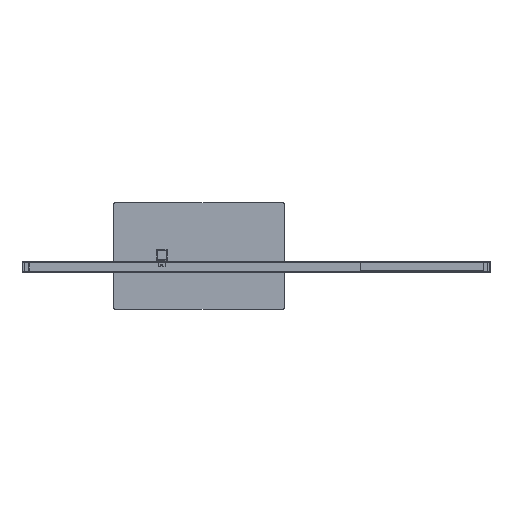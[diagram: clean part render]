
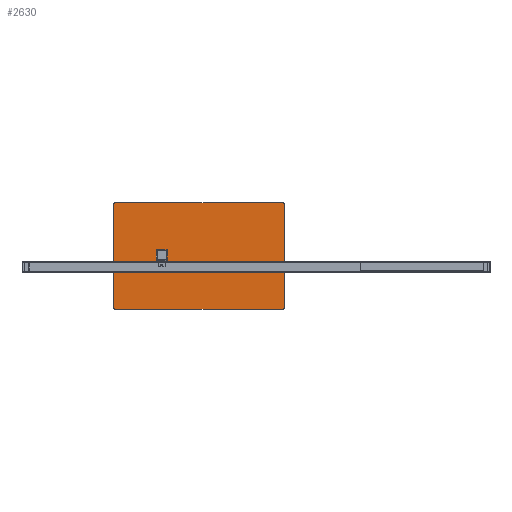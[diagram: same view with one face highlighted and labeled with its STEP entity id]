
A CAD part, top view. The second image highlights one B-rep face of the part: STEP entity #2630.
In plain terms, the highlighted planar face has unit normal (0, 0, 1).
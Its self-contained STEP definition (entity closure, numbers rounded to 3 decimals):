
#127=CIRCLE('',#2875,2.);
#128=CIRCLE('',#2876,2.);
#129=CIRCLE('',#2877,2.);
#130=CIRCLE('',#2878,2.);
#298=FACE_OUTER_BOUND('',#454,.T.);
#454=EDGE_LOOP('',(#2168,#2169,#2170,#2171,#2172,#2173,#2174,#2175));
#709=LINE('',#4288,#964);
#710=LINE('',#4292,#965);
#711=LINE('',#4296,#966);
#712=LINE('',#4299,#967);
#964=VECTOR('',#3540,10.);
#965=VECTOR('',#3543,10.);
#966=VECTOR('',#3546,10.);
#967=VECTOR('',#3549,10.);
#1185=VERTEX_POINT('',#4284);
#1186=VERTEX_POINT('',#4285);
#1187=VERTEX_POINT('',#4287);
#1188=VERTEX_POINT('',#4289);
#1189=VERTEX_POINT('',#4291);
#1190=VERTEX_POINT('',#4293);
#1191=VERTEX_POINT('',#4295);
#1192=VERTEX_POINT('',#4297);
#1517=EDGE_CURVE('',#1185,#1186,#127,.T.);
#1518=EDGE_CURVE('',#1185,#1187,#709,.T.);
#1519=EDGE_CURVE('',#1188,#1187,#128,.T.);
#1520=EDGE_CURVE('',#1188,#1189,#710,.T.);
#1521=EDGE_CURVE('',#1190,#1189,#129,.T.);
#1522=EDGE_CURVE('',#1190,#1191,#711,.T.);
#1523=EDGE_CURVE('',#1192,#1191,#130,.T.);
#1524=EDGE_CURVE('',#1192,#1186,#712,.T.);
#2168=ORIENTED_EDGE('',*,*,#1517,.F.);
#2169=ORIENTED_EDGE('',*,*,#1518,.T.);
#2170=ORIENTED_EDGE('',*,*,#1519,.F.);
#2171=ORIENTED_EDGE('',*,*,#1520,.T.);
#2172=ORIENTED_EDGE('',*,*,#1521,.F.);
#2173=ORIENTED_EDGE('',*,*,#1522,.T.);
#2174=ORIENTED_EDGE('',*,*,#1523,.F.);
#2175=ORIENTED_EDGE('',*,*,#1524,.T.);
#2339=PLANE('',#2874);
#2630=ADVANCED_FACE('',(#298),#2339,.F.);
#2874=AXIS2_PLACEMENT_3D('',#4283,#3536,#3537);
#2875=AXIS2_PLACEMENT_3D('',#4286,#3538,#3539);
#2876=AXIS2_PLACEMENT_3D('',#4290,#3541,#3542);
#2877=AXIS2_PLACEMENT_3D('',#4294,#3544,#3545);
#2878=AXIS2_PLACEMENT_3D('',#4298,#3547,#3548);
#3536=DIRECTION('center_axis',(0.,0.,
-1.));
#3537=DIRECTION('ref_axis',(1.,0.,0.));
#3538=DIRECTION('center_axis',(0.,0.,
-1.));
#3539=DIRECTION('ref_axis',(-0.707,0.707,0.));
#3540=DIRECTION('',(0.,-1.,0.));
#3541=DIRECTION('center_axis',(0.,0.,
-1.));
#3542=DIRECTION('ref_axis',(-0.707,-0.707,0.));
#3543=DIRECTION('',(1.,0.,0.));
#3544=DIRECTION('center_axis',(0.,0.,
-1.));
#3545=DIRECTION('ref_axis',(0.707,-0.707,0.));
#3546=DIRECTION('',(0.,1.,0.));
#3547=DIRECTION('center_axis',(0.,0.,
-1.));
#3548=DIRECTION('ref_axis',(0.707,0.707,0.));
#3549=DIRECTION('',(-1.,0.,0.));
#4283=CARTESIAN_POINT('Origin',(87.5,0.,
2.7));
#4284=CARTESIAN_POINT('',(-112.5,123.,2.7));
#4285=CARTESIAN_POINT('',(-110.5,125.,2.7));
#4286=CARTESIAN_POINT('Origin',(-110.5,123.,2.7));
#4287=CARTESIAN_POINT('',(-112.5,-123.,2.7));
#4288=CARTESIAN_POINT('',(-112.5,125.,2.7));
#4289=CARTESIAN_POINT('',(-110.5,-125.,2.7));
#4290=CARTESIAN_POINT('Origin',(-110.5,-123.,2.7));
#4291=CARTESIAN_POINT('',(285.5,-125.,2.7));
#4292=CARTESIAN_POINT('',(-112.5,-125.,2.7));
#4293=CARTESIAN_POINT('',(287.5,-123.,2.7));
#4294=CARTESIAN_POINT('Origin',(285.5,-123.,2.7));
#4295=CARTESIAN_POINT('',(287.5,123.,2.7));
#4296=CARTESIAN_POINT('',(287.5,-125.,2.7));
#4297=CARTESIAN_POINT('',(285.5,125.,2.7));
#4298=CARTESIAN_POINT('Origin',(285.5,123.,2.7));
#4299=CARTESIAN_POINT('',(287.5,125.,2.7));
